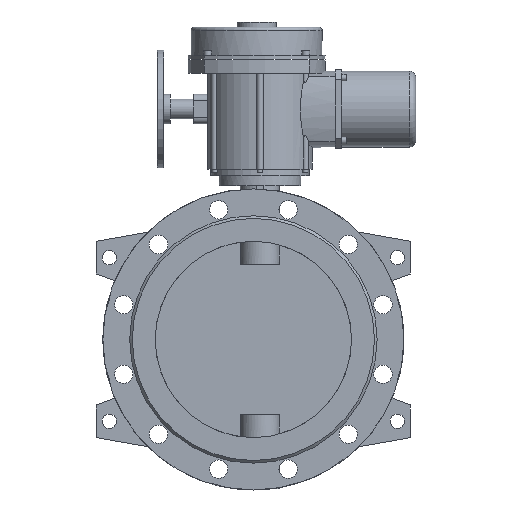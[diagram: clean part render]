
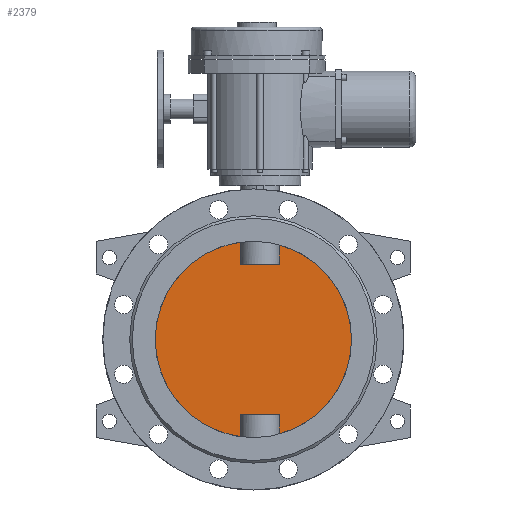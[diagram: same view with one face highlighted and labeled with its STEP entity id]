
A CAD part, front view. The second image highlights one B-rep face of the part: STEP entity #2379.
In plain terms, the highlighted planar face has unit normal (0, -1, 0).
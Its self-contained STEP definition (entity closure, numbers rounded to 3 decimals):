
#2379=ADVANCED_FACE('',(#6270),#6272,.F.);
#6270=FACE_BOUND('',#6271,.T.);
#6271=EDGE_LOOP('',(#8454,#8455,#8456,#8457,#8458,#8459,#8460,#8461));
#6272=PLANE('',#6273);
#6273=AXIS2_PLACEMENT_3D('',#6274,#6275,#6276);
#6274=CARTESIAN_POINT('',(0.,-5.,0.));
#6275=DIRECTION('',(0.,1.,0.));
#6276=DIRECTION('',(1.,0.,0.));
#8454=ORIENTED_EDGE('',*,*,#9571,.T.);
#8455=ORIENTED_EDGE('',*,*,#9591,.T.);
#8456=ORIENTED_EDGE('',*,*,#9592,.T.);
#8457=ORIENTED_EDGE('',*,*,#9593,.T.);
#8458=ORIENTED_EDGE('',*,*,#9573,.T.);
#8459=ORIENTED_EDGE('',*,*,#9594,.T.);
#8460=ORIENTED_EDGE('',*,*,#9595,.T.);
#8461=ORIENTED_EDGE('',*,*,#9596,.T.);
#9571=EDGE_CURVE('',#10860,#10861,#10862,.F.);
#9573=EDGE_CURVE('',#10865,#10863,#10866,.F.);
#9591=EDGE_CURVE('',#10861,#10896,#10897,.T.);
#9592=EDGE_CURVE('',#10896,#10898,#10899,.F.);
#9593=EDGE_CURVE('',#10898,#10865,#10900,.F.);
#9594=EDGE_CURVE('',#10863,#10901,#10902,.F.);
#9595=EDGE_CURVE('',#10901,#10903,#10904,.F.);
#9596=EDGE_CURVE('',#10903,#10860,#10905,.T.);
#10860=VERTEX_POINT('',#15794);
#10861=VERTEX_POINT('',#15795);
#10862=CIRCLE('',#15796,150.);
#10863=VERTEX_POINT('',#15800);
#10865=VERTEX_POINT('',#15906);
#10866=CIRCLE('',#15907,150.);
#10896=VERTEX_POINT('',#16104);
#10897=LINE('',#16105,#16106);
#10898=VERTEX_POINT('',#16108);
#10899=LINE('',#16109,#16110);
#10900=LINE('',#16112,#16113);
#10901=VERTEX_POINT('',#16115);
#10902=LINE('',#16116,#16117);
#10903=VERTEX_POINT('',#16119);
#10904=LINE('',#16120,#16121);
#10905=LINE('',#16123,#16124);
#15794=CARTESIAN_POINT('',(39.58,-5.,-144.684));
#15795=CARTESIAN_POINT('',(39.58,-5.,144.684));
#15796=AXIS2_PLACEMENT_3D('',#15797,#15798,#15799);
#15797=CARTESIAN_POINT('',(0.,-5.,0.));
#15798=DIRECTION('',(0.,1.,0.));
#15799=DIRECTION('',(0.264,0.,0.965));
#15800=CARTESIAN_POINT('',(-19.58,-5.,-148.717));
#15906=CARTESIAN_POINT('',(-19.58,-5.,148.717));
#15907=AXIS2_PLACEMENT_3D('',#15908,#15909,#15910);
#15908=CARTESIAN_POINT('',(0.,-5.,0.));
#15909=DIRECTION('',(0.,1.,0.));
#15910=DIRECTION('',(-0.131,0.,-0.991));
#16104=CARTESIAN_POINT('',(39.58,-5.,115.));
#16105=CARTESIAN_POINT('',(39.58,-5.,144.684));
#16106=VECTOR('',#16107,1.);
#16107=DIRECTION('',(0.,0.,-1.));
#16108=CARTESIAN_POINT('',(-19.58,-5.,115.));
#16109=CARTESIAN_POINT('',(-19.58,-5.,115.));
#16110=VECTOR('',#16111,1.);
#16111=DIRECTION('',(1.,0.,0.));
#16112=CARTESIAN_POINT('',(-19.58,-5.,148.717));
#16113=VECTOR('',#16114,1.);
#16114=DIRECTION('',(0.,0.,-1.));
#16115=CARTESIAN_POINT('',(-19.58,-5.,-115.));
#16116=CARTESIAN_POINT('',(-19.58,-5.,-115.));
#16117=VECTOR('',#16118,1.);
#16118=DIRECTION('',(0.,0.,-1.));
#16119=CARTESIAN_POINT('',(39.58,-5.,-115.));
#16120=CARTESIAN_POINT('',(39.58,-5.,-115.));
#16121=VECTOR('',#16122,1.);
#16122=DIRECTION('',(-1.,0.,0.));
#16123=CARTESIAN_POINT('',(39.58,-5.,-115.));
#16124=VECTOR('',#16125,1.);
#16125=DIRECTION('',(0.,0.,-1.));
